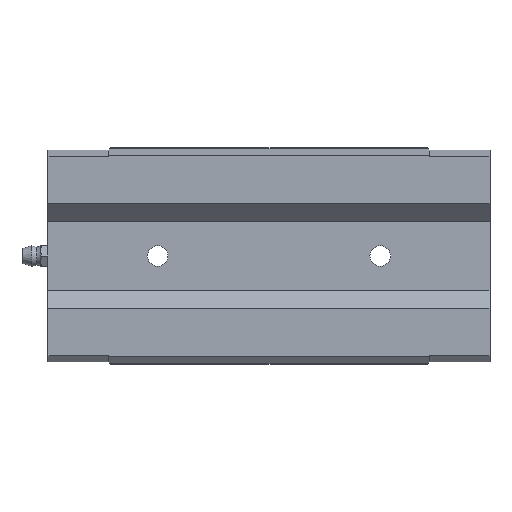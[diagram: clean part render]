
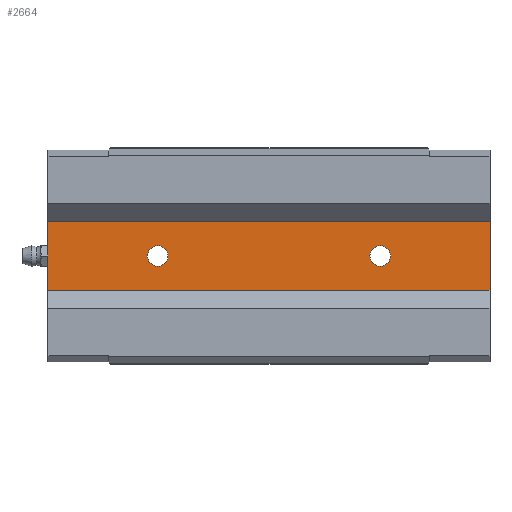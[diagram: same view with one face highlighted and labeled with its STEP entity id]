
A CAD part, front view. The second image highlights one B-rep face of the part: STEP entity #2664.
In plain terms, the highlighted planar face has unit normal (0, -1, 0).
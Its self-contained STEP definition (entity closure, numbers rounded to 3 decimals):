
#185=CIRCLE('',#2916,3.324);
#186=CIRCLE('',#2917,3.324);
#743=ORIENTED_EDGE('',*,*,#1218,.F.);
#744=ORIENTED_EDGE('',*,*,#1219,.F.);
#745=ORIENTED_EDGE('',*,*,#1040,.F.);
#746=ORIENTED_EDGE('',*,*,#1217,.F.);
#747=ORIENTED_EDGE('',*,*,#983,.T.);
#748=ORIENTED_EDGE('',*,*,#1220,.T.);
#983=EDGE_CURVE('',#1339,#1338,#1589,.T.);
#1040=EDGE_CURVE('',#1392,#1393,#1625,.T.);
#1217=EDGE_CURVE('',#1339,#1392,#1775,.T.);
#1218=EDGE_CURVE('',#1491,#1491,#185,.T.);
#1219=EDGE_CURVE('',#1492,#1492,#186,.T.);
#1220=EDGE_CURVE('',#1338,#1393,#1776,.T.);
#1338=VERTEX_POINT('',#3904);
#1339=VERTEX_POINT('',#3906);
#1392=VERTEX_POINT('',#4016);
#1393=VERTEX_POINT('',#4018);
#1491=VERTEX_POINT('',#4376);
#1492=VERTEX_POINT('',#4378);
#1589=LINE('',#3905,#1811);
#1625=LINE('',#4017,#1847);
#1775=LINE('',#4373,#1997);
#1776=LINE('',#4379,#1998);
#1811=VECTOR('',#3103,1000.);
#1847=VECTOR('',#3183,1000.);
#1997=VECTOR('',#3549,1000.);
#1998=VECTOR('',#3556,1000.);
#2113=EDGE_LOOP('',(#743));
#2114=EDGE_LOOP('',(#744));
#2115=EDGE_LOOP('',(#745,#746,#747,#748));
#2347=FACE_BOUND('',#2113,.T.);
#2348=FACE_BOUND('',#2114,.T.);
#2349=FACE_BOUND('',#2115,.T.);
#2550=PLANE('',#2915);
#2664=ADVANCED_FACE('',(#2347,#2348,#2349),#2550,.T.);
#2915=AXIS2_PLACEMENT_3D('',#4374,#3550,#3551);
#2916=AXIS2_PLACEMENT_3D('',#4375,#3552,#3553);
#2917=AXIS2_PLACEMENT_3D('',#4377,#3554,#3555);
#3103=DIRECTION('',(0.,0.,1.));
#3183=DIRECTION('',(0.,0.,1.));
#3549=DIRECTION('',(-1.,0.,0.));
#3550=DIRECTION('',(0.,-1.,0.));
#3551=DIRECTION('',(0.,0.,-1.));
#3552=DIRECTION('',(0.,-1.,0.));
#3553=DIRECTION('',(0.,0.,-1.));
#3554=DIRECTION('',(0.,-1.,0.));
#3555=DIRECTION('',(0.,0.,-1.));
#3556=DIRECTION('',(-1.,0.,0.));
#3904=CARTESIAN_POINT('',(71.5,24.6,15.97));
#3905=CARTESIAN_POINT('',(71.5,24.6,-15.97));
#3906=CARTESIAN_POINT('',(71.5,24.6,-15.97));
#4016=CARTESIAN_POINT('',(-71.5,24.6,-15.97));
#4017=CARTESIAN_POINT('',(-71.5,24.6,-15.97));
#4018=CARTESIAN_POINT('',(-71.5,24.6,15.97));
#4373=CARTESIAN_POINT('',(71.5,24.6,-15.97));
#4374=CARTESIAN_POINT('',(71.5,24.6,-15.97));
#4375=CARTESIAN_POINT('',(-36.,24.6,0.));
#4376=CARTESIAN_POINT('',(-36.,24.6,-3.324));
#4377=CARTESIAN_POINT('',(36.,24.6,0.));
#4378=CARTESIAN_POINT('',(36.,24.6,-3.324));
#4379=CARTESIAN_POINT('',(71.5,24.6,15.97));
